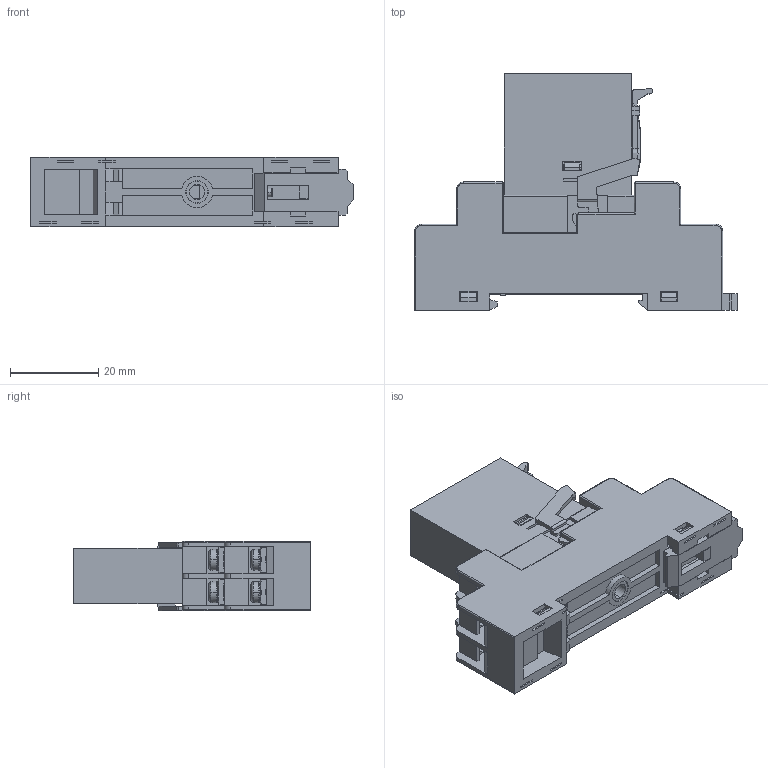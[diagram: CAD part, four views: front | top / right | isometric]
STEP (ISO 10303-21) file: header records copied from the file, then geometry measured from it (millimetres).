
FILE_DESCRIPTION (( 'STEP AP203' ), '1' );
FILE_NAME ('SRT08-E+RFT2CO 俋倛.STEP', '2023-01-31T05:57:46', ( '' ), ( '' ), 'SwSTEP 2.0', 'SolidWorks 2018', '' );
FILE_SCHEMA (( 'CONFIG_CONTROL_DESIGN' ));
Products named in the file (1): SRT08-E+RFT2CO 俋倛
Bounding box: 72.9 x 53.5 x 15.8 mm (x, y, z)
Volume: 30489.4 mm3; surface area: 16476.6 mm2
Topology: 2 solids, 2 shells, 2451 faces, 6723 edges, 4330 vertices
Faces by surface type: plane 1562, cylinder 539, cone 148, torus 128, bspline 60, sphere 14
Entity records: 84228 total; most frequent: CARTESIAN_POINT 23582, ORIENTED_EDGE 13406, DIRECTION 11576, EDGE_CURVE 6703, VERTEX_POINT 4330, LINE 4258, VECTOR 4258, AXIS2_PLACEMENT_3D 3659
